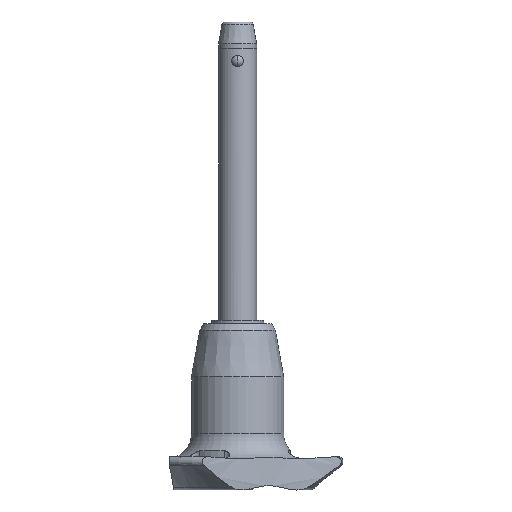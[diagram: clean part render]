
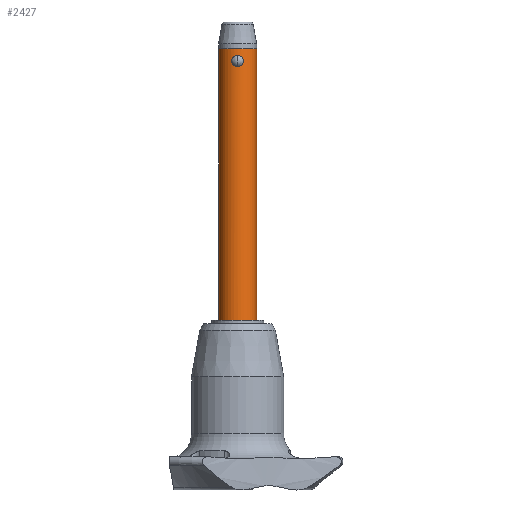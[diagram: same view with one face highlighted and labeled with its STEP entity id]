
A CAD part, front view. The second image highlights one B-rep face of the part: STEP entity #2427.
In plain terms, the highlighted cylindrical face has radius 3 mm (diameter 6 mm), a partial arc.
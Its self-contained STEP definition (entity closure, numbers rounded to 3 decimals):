
#30 = VERTEX_POINT ( 'NONE', #1650 ) ;
#67 = EDGE_CURVE ( 'NONE', #2293, #30, #1908, .T. ) ;
#127 = CARTESIAN_POINT ( 'NONE',  ( 0., -3., 0. ) ) ;
#162 = CARTESIAN_POINT ( 'NONE',  ( 0., 0., -40. ) ) ;
#164 = CARTESIAN_POINT ( 'NONE',  ( -0.46, -2.967, 0.101 ) ) ;
#168 = VERTEX_POINT ( 'NONE', #879 ) ;
#178 = CARTESIAN_POINT ( 'NONE',  ( -0.461, -2.967, 1.63 ) ) ;
#242 = ORIENTED_EDGE ( 'NONE', *, *, #2279, .F. ) ;
#292 = VERTEX_POINT ( 'NONE', #1088 ) ;
#353 = CARTESIAN_POINT ( 'NONE',  ( 0.238, -2.993, 1.712 ) ) ;
#363 = CARTESIAN_POINT ( 'NONE',  ( -0.563, -2.948, 1.57 ) ) ;
#369 = ORIENTED_EDGE ( 'NONE', *, *, #1175, .T. ) ;
#374 = CARTESIAN_POINT ( 'NONE',  ( -0.812, -2.889, 0.414 ) ) ;
#378 = CARTESIAN_POINT ( 'NONE',  ( 0.937, -2.85, 0.985 ) ) ;
#383 = DIRECTION ( 'NONE',  ( 1., 0., 0. ) ) ;
#385 = DIRECTION ( 'NONE',  ( 0., 0., 1. ) ) ;
#484 = DIRECTION ( 'NONE',  ( 0., 0., -1. ) ) ;
#549 = AXIS2_PLACEMENT_3D ( 'NONE', #162, #995, #383 ) ;
#566 = CARTESIAN_POINT ( 'NONE',  ( 0.74, -2.909, 1.414 ) ) ;
#592 = CARTESIAN_POINT ( 'NONE',  ( 0.118, -3., 0. ) ) ;
#600 = EDGE_CURVE ( 'NONE', #292, #1910, #622, .T. ) ;
#604 = CARTESIAN_POINT ( 'NONE',  ( 0.811, -2.889, 0.412 ) ) ;
#622 = LINE ( 'NONE', #2350, #1892 ) ;
#782 = CARTESIAN_POINT ( 'NONE',  ( 0.91, -2.859, 0.626 ) ) ;
#791 = CARTESIAN_POINT ( 'NONE',  ( 0.238, -2.993, 0.021 ) ) ;
#798 = CARTESIAN_POINT ( 'NONE',  ( -0.12, -3., 1.732 ) ) ;
#815 = CARTESIAN_POINT ( 'NONE',  ( -0.564, -2.948, 0.162 ) ) ;
#879 = CARTESIAN_POINT ( 'NONE',  ( 3., 0., 2.8 ) ) ;
#943 = VECTOR ( 'NONE', #2145, 1000. ) ;
#995 = DIRECTION ( 'NONE',  ( 0., 0., 1. ) ) ;
#1004 = CARTESIAN_POINT ( 'NONE',  ( 0., -3., 1.732 ) ) ;
#1055 = LINE ( 'NONE', #1924, #943 ) ;
#1088 = CARTESIAN_POINT ( 'NONE',  ( -3., 0., -40. ) ) ;
#1175 = EDGE_CURVE ( 'NONE', #1187, #168, #1055, .T. ) ;
#1187 = VERTEX_POINT ( 'NONE', #1783 ) ;
#1219 = CARTESIAN_POINT ( 'NONE',  ( 0.12, -3., 1.732 ) ) ;
#1230 = CARTESIAN_POINT ( 'NONE',  ( -0.937, -2.85, 0.749 ) ) ;
#1233 = CARTESIAN_POINT ( 'NONE',  ( 0.459, -2.967, 0.101 ) ) ;
#1250 = CARTESIAN_POINT ( 'NONE',  ( -0.91, -2.859, 1.105 ) ) ;
#1305 = CIRCLE ( 'NONE', #2664, 3. ) ;
#1430 = CARTESIAN_POINT ( 'NONE',  ( 0.564, -2.948, 1.57 ) ) ;
#1465 = CARTESIAN_POINT ( 'NONE',  ( -0.937, -2.85, 0.986 ) ) ;
#1474 = CYLINDRICAL_SURFACE ( 'NONE', #549, 3. ) ;
#1565 = DIRECTION ( 'NONE',  ( 0., 0., 1. ) ) ;
#1609 = DIRECTION ( 'NONE',  ( 1., 0., 0. ) ) ;
#1643 = CARTESIAN_POINT ( 'NONE',  ( 0.937, -2.85, 0.744 ) ) ;
#1650 = CARTESIAN_POINT ( 'NONE',  ( 0., -3., 0. ) ) ;
#1661 = CARTESIAN_POINT ( 'NONE',  ( -0.811, -2.889, 1.319 ) ) ;
#1688 = CARTESIAN_POINT ( 'NONE',  ( 0., -3., 1.732 ) ) ;
#1711 = CIRCLE ( 'NONE', #2530, 3. ) ;
#1743 = ORIENTED_EDGE ( 'NONE', *, *, #600, .F. ) ;
#1783 = CARTESIAN_POINT ( 'NONE',  ( 3., 0., -40. ) ) ;
#1843 = FACE_OUTER_BOUND ( 'NONE', #1963, .T. ) ;
#1856 = CARTESIAN_POINT ( 'NONE',  ( 0.563, -2.948, 0.162 ) ) ;
#1877 = CARTESIAN_POINT ( 'NONE',  ( -0.238, -2.993, 1.712 ) ) ;
#1884 = EDGE_CURVE ( 'NONE', #1910, #168, #1711, .T. ) ;
#1892 = VECTOR ( 'NONE', #385, 1000. ) ;
#1908 = B_SPLINE_CURVE_WITH_KNOTS ( 'NONE', 3,
 ( #1688, #798, #1877, #178, #363, #2113, #1661, #1250, #1465, #1230, #2313, #374, #2545, #815, #164, #2089, #2129, #1909 ),
 .UNSPECIFIED., .F., .F.,
 ( 4, 2, 2, 2, 2, 2, 2, 2, 4 ),
 ( 0., 0., 0.001, 0.001, 0.001, 0.002, 0.002, 0.002, 0.003 ),
 .UNSPECIFIED. ) ;
#1909 = CARTESIAN_POINT ( 'NONE',  ( 0., -3., 0. ) ) ;
#1910 = VERTEX_POINT ( 'NONE', #2471 ) ;
#1924 = CARTESIAN_POINT ( 'NONE',  ( 3., 0., -40. ) ) ;
#1963 = EDGE_LOOP ( 'NONE', ( #1743, #242, #369, #2040 ) ) ;
#2010 = EDGE_LOOP ( 'NONE', ( #2063, #2025 ) ) ;
#2025 = ORIENTED_EDGE ( 'NONE', *, *, #2732, .F. ) ;
#2040 = ORIENTED_EDGE ( 'NONE', *, *, #1884, .F. ) ;
#2056 = CARTESIAN_POINT ( 'NONE',  ( 0.738, -2.909, 0.317 ) ) ;
#2063 = ORIENTED_EDGE ( 'NONE', *, *, #67, .F. ) ;
#2089 = CARTESIAN_POINT ( 'NONE',  ( -0.238, -2.993, 0.021 ) ) ;
#2113 = CARTESIAN_POINT ( 'NONE',  ( -0.739, -2.909, 1.414 ) ) ;
#2129 = CARTESIAN_POINT ( 'NONE',  ( -0.118, -3., 0. ) ) ;
#2145 = DIRECTION ( 'NONE',  ( 0., 0., 1. ) ) ;
#2230 = CARTESIAN_POINT ( 'NONE',  ( 0., -3., 1.732 ) ) ;
#2233 = CARTESIAN_POINT ( 'NONE',  ( 0., 0., 2.8 ) ) ;
#2267 = CARTESIAN_POINT ( 'NONE',  ( 0.911, -2.859, 1.103 ) ) ;
#2278 = DIRECTION ( 'NONE',  ( 1., 0., 0. ) ) ;
#2279 = EDGE_CURVE ( 'NONE', #1187, #292, #1305, .T. ) ;
#2291 = CARTESIAN_POINT ( 'NONE',  ( 0.461, -2.966, 1.63 ) ) ;
#2293 = VERTEX_POINT ( 'NONE', #2230 ) ;
#2295 = FACE_BOUND ( 'NONE', #2010, .T. ) ;
#2313 = CARTESIAN_POINT ( 'NONE',  ( -0.911, -2.859, 0.63 ) ) ;
#2350 = CARTESIAN_POINT ( 'NONE',  ( -3., 0., -40. ) ) ;
#2357 = B_SPLINE_CURVE_WITH_KNOTS ( 'NONE', 3,
 ( #127, #592, #791, #1233, #1856, #2056, #604, #782, #1643, #378, #2267, #2501, #566, #1430, #2291, #353, #1219, #1004 ),
 .UNSPECIFIED., .F., .F.,
 ( 4, 2, 2, 2, 2, 2, 2, 2, 4 ),
 ( 0.003, 0.003, 0.004, 0.004, 0.004, 0.005, 0.005, 0.005, 0.006 ),
 .UNSPECIFIED. ) ;
#2427 = ADVANCED_FACE ( 'NONE', ( #1843, #2295 ), #1474, .T. ) ;
#2439 = CARTESIAN_POINT ( 'NONE',  ( 0., 0., -40. ) ) ;
#2471 = CARTESIAN_POINT ( 'NONE',  ( -3., 0., 2.8 ) ) ;
#2501 = CARTESIAN_POINT ( 'NONE',  ( 0.812, -2.888, 1.317 ) ) ;
#2530 = AXIS2_PLACEMENT_3D ( 'NONE', #2233, #1565, #2278 ) ;
#2545 = CARTESIAN_POINT ( 'NONE',  ( -0.74, -2.909, 0.318 ) ) ;
#2664 = AXIS2_PLACEMENT_3D ( 'NONE', #2439, #484, #1609 ) ;
#2732 = EDGE_CURVE ( 'NONE', #30, #2293, #2357, .T. ) ;
